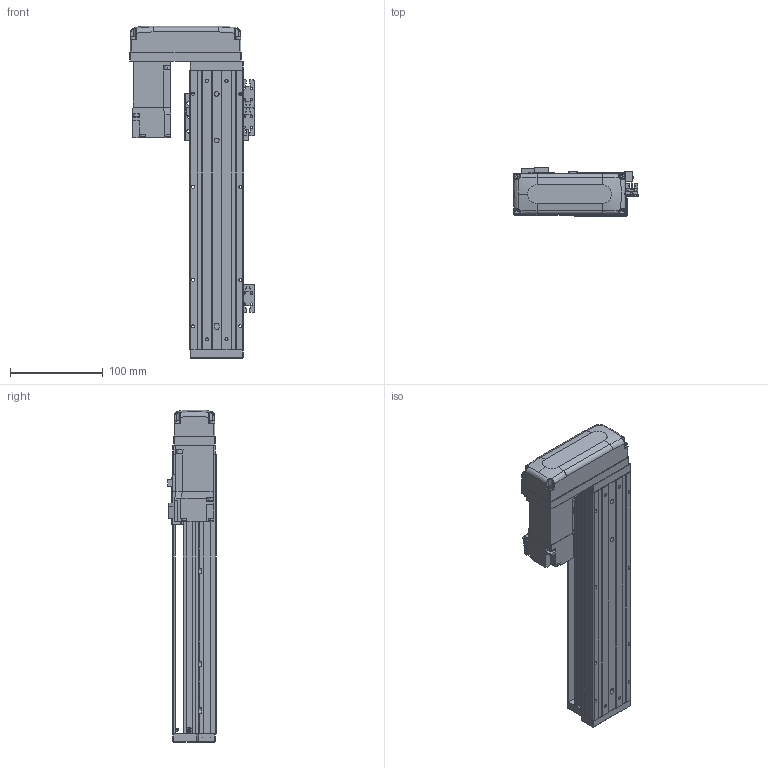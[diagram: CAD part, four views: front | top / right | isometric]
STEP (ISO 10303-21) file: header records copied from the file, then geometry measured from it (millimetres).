
FILE_DESCRIPTION (( 'STEP AP203' ), '1' );
FILE_NAME ('KTHA50-200-BR-M10-C4L.step', '2022-03-19T07:14:50', ( '微软用户' ), ( '微软中国' ), 'SwSTEP 2.0', 'SolidWorks 2020', '' );
FILE_SCHEMA (( 'CONFIG_CONTROL_DESIGN' ));
Length unit declared in the file: millimetre
Products named in the file (18): EE_SX911P_R; GBT 70.3-M3℅6; GBT77-2000 M3×3; HG-KR13（三菱）; GBT 70.1-M3℅6; CTHA50-015-2_CTHA60-015-2; KTHA50-002; CTHA60-017; CTHA60-033; KTHA50-004; GBT 70.1-M4×12; GBT 70.1-M3×15; KTHA50-005; CTHA60-016; KTHA50-200-BR-M10-C4L; KTHA50-001_300; GB¨uT 70.2-M3¡Á6_M3¡Á6; CTHA60-021
Assembly tree (53 placements, depth 2):
  KTHA50-200-BR-M10-C4L
    KTHA50-001_300
    KTHA50-002
    KTHA50-004
    KTHA50-005
    GB¨uT 70.2-M3¡Á6_M3¡Á6  x6
    EE_SX911P_R  x3
    GBT77-2000 M3×3  x6
    GBT 70.1-M3℅6  x6
    CTHA60-017  x3
    GBT 70.1-M4×12  x10
    CTHA60-016  x2
    CTHA60-021  x2
    GBT 70.3-M3℅6  x4
    HG-KR13（三菱）
    CTHA50-015-2_CTHA60-015-2
    CTHA60-033
    GBT 70.1-M3×15  x4
Bounding box: 133.82 x 52.3 x 357 mm (x, y, z)
Volume: 870211 mm3; surface area: 214891.2 mm2
Topology: 56 solids, 56 shells, 2223 faces, 5239 edges, 3208 vertices
Faces by surface type: plane 1240, cylinder 538, cone 303, torus 100, bspline 26, sphere 16
Entity records: 36943 total; most frequent: CARTESIAN_POINT 7010, DIRECTION 5745, ORIENTED_EDGE 5490, EDGE_CURVE 2745, AXIS2_PLACEMENT_3D 1959, LINE 1827, VECTOR 1827, VERTEX_POINT 1722
